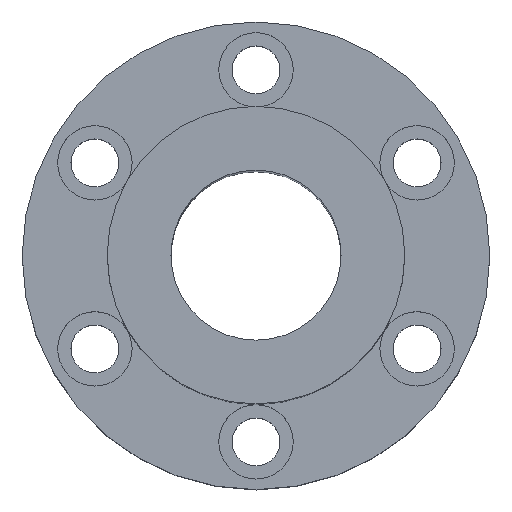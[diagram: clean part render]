
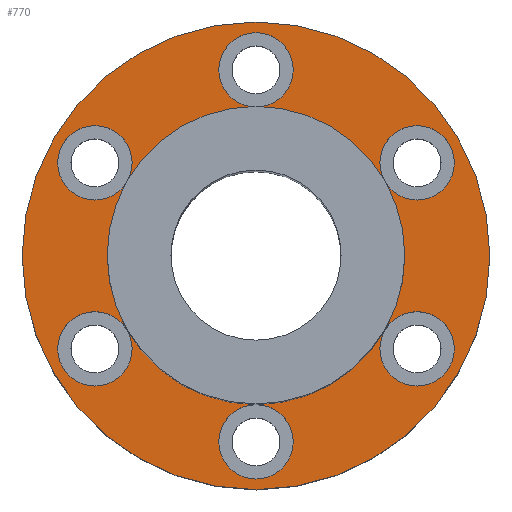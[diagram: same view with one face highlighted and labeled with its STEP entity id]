
A CAD part, top view. The second image highlights one B-rep face of the part: STEP entity #770.
In plain terms, the highlighted planar face has unit normal (0, 0, 1).
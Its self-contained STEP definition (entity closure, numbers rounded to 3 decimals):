
#1=CARTESIAN_POINT('',(0.,0.,17.5));
#2=DIRECTION('',(0.,0.,-1.));
#3=DIRECTION('',(0.866,0.5,0.));
#4=AXIS2_PLACEMENT_3D('',#1,#2,#3);
#6=CARTESIAN_POINT('',(30.311,17.5,17.5));
#7=DIRECTION('',(0.,0.,-1.));
#8=DIRECTION('',(0.5,-0.866,0.));
#9=AXIS2_PLACEMENT_3D('',#6,#7,#8);
#11=CARTESIAN_POINT('',(30.311,17.5,17.5));
#12=DIRECTION('',(0.,0.,-1.));
#13=DIRECTION('',(-0.5,0.866,0.));
#14=AXIS2_PLACEMENT_3D('',#11,#12,#13);
#16=CARTESIAN_POINT('',(30.311,17.5,17.5));
#17=DIRECTION('',(0.,0.,-1.));
#18=DIRECTION('',(-0.866,-0.5,0.));
#19=AXIS2_PLACEMENT_3D('',#16,#17,#18);
#21=CARTESIAN_POINT('',(0.,0.,17.5));
#22=DIRECTION('',(0.,0.,-1.));
#23=DIRECTION('',(0.,1.,0.));
#24=AXIS2_PLACEMENT_3D('',#21,#22,#23);
#26=CARTESIAN_POINT('',(0.,35.,17.5));
#27=DIRECTION('',(0.,0.,-1.));
#28=DIRECTION('',(1.,0.,0.));
#29=AXIS2_PLACEMENT_3D('',#26,#27,#28);
#31=CARTESIAN_POINT('',(0.,35.,17.5));
#32=DIRECTION('',(0.,0.,-1.));
#33=DIRECTION('',(-1.,0.,0.));
#34=AXIS2_PLACEMENT_3D('',#31,#32,#33);
#36=CARTESIAN_POINT('',(0.,35.,17.5));
#37=DIRECTION('',(0.,0.,-1.));
#38=DIRECTION('',(0.,-1.,0.));
#39=AXIS2_PLACEMENT_3D('',#36,#37,#38);
#41=CARTESIAN_POINT('',(0.,0.,17.5));
#42=DIRECTION('',(0.,0.,-1.));
#43=DIRECTION('',(-0.866,0.5,0.));
#44=AXIS2_PLACEMENT_3D('',#41,#42,#43);
#46=CARTESIAN_POINT('',(-30.311,17.5,17.5));
#47=DIRECTION('',(0.,0.,-1.));
#48=DIRECTION('',(0.5,0.866,0.));
#49=AXIS2_PLACEMENT_3D('',#46,#47,#48);
#51=CARTESIAN_POINT('',(-30.311,17.5,17.5));
#52=DIRECTION('',(0.,0.,-1.));
#53=DIRECTION('',(-0.5,-0.866,0.));
#54=AXIS2_PLACEMENT_3D('',#51,#52,#53);
#56=CARTESIAN_POINT('',(-30.311,17.5,17.5));
#57=DIRECTION('',(0.,0.,-1.));
#58=DIRECTION('',(0.866,-0.5,0.));
#59=AXIS2_PLACEMENT_3D('',#56,#57,#58);
#61=CARTESIAN_POINT('',(0.,0.,17.5));
#62=DIRECTION('',(0.,0.,-1.));
#63=DIRECTION('',(-1.,0.,0.));
#64=AXIS2_PLACEMENT_3D('',#61,#62,#63);
#66=CARTESIAN_POINT('',(0.,0.,17.5));
#67=DIRECTION('',(0.,0.,-1.));
#68=DIRECTION('',(-0.866,-0.5,0.));
#69=AXIS2_PLACEMENT_3D('',#66,#67,#68);
#71=CARTESIAN_POINT('',(-30.311,-17.5,17.5));
#72=DIRECTION('',(0.,0.,-1.));
#73=DIRECTION('',(-0.5,0.866,0.));
#74=AXIS2_PLACEMENT_3D('',#71,#72,#73);
#76=CARTESIAN_POINT('',(-30.311,-17.5,17.5));
#77=DIRECTION('',(0.,0.,-1.));
#78=DIRECTION('',(0.5,-0.866,0.));
#79=AXIS2_PLACEMENT_3D('',#76,#77,#78);
#81=CARTESIAN_POINT('',(-30.311,-17.5,17.5));
#82=DIRECTION('',(0.,0.,-1.));
#83=DIRECTION('',(0.866,0.5,0.));
#84=AXIS2_PLACEMENT_3D('',#81,#82,#83);
#86=CARTESIAN_POINT('',(0.,0.,17.5));
#87=DIRECTION('',(0.,0.,-1.));
#88=DIRECTION('',(0.,-1.,0.));
#89=AXIS2_PLACEMENT_3D('',#86,#87,#88);
#91=CARTESIAN_POINT('',(0.,-35.,17.5));
#92=DIRECTION('',(0.,0.,-1.));
#93=DIRECTION('',(-1.,0.,0.));
#94=AXIS2_PLACEMENT_3D('',#91,#92,#93);
#96=CARTESIAN_POINT('',(0.,-35.,17.5));
#97=DIRECTION('',(0.,0.,-1.));
#98=DIRECTION('',(1.,0.,0.));
#99=AXIS2_PLACEMENT_3D('',#96,#97,#98);
#101=CARTESIAN_POINT('',(0.,-35.,17.5));
#102=DIRECTION('',(0.,0.,-1.));
#103=DIRECTION('',(0.,1.,0.));
#104=AXIS2_PLACEMENT_3D('',#101,#102,#103);
#106=CARTESIAN_POINT('',(0.,0.,17.5));
#107=DIRECTION('',(0.,0.,-1.));
#108=DIRECTION('',(0.866,-0.5,0.));
#109=AXIS2_PLACEMENT_3D('',#106,#107,#108);
#111=CARTESIAN_POINT('',(30.311,-17.5,17.5));
#112=DIRECTION('',(0.,0.,-1.));
#113=DIRECTION('',(-0.5,-0.866,0.));
#114=AXIS2_PLACEMENT_3D('',#111,#112,#113);
#116=CARTESIAN_POINT('',(30.311,-17.5,17.5));
#117=DIRECTION('',(0.,0.,-1.));
#118=DIRECTION('',(0.5,0.866,0.));
#119=AXIS2_PLACEMENT_3D('',#116,#117,#118);
#121=CARTESIAN_POINT('',(30.311,-17.5,17.5));
#122=DIRECTION('',(0.,0.,-1.));
#123=DIRECTION('',(-0.866,0.5,0.));
#124=AXIS2_PLACEMENT_3D('',#121,#122,#123);
#126=CARTESIAN_POINT('',(0.,0.,17.5));
#127=DIRECTION('',(0.,0.,-1.));
#128=DIRECTION('',(1.,0.,0.));
#129=AXIS2_PLACEMENT_3D('',#126,#127,#128);
#131=CARTESIAN_POINT('',(0.,0.,17.5));
#132=DIRECTION('',(0.,0.,1.));
#133=DIRECTION('',(1.,0.,0.));
#134=AXIS2_PLACEMENT_3D('',#131,#132,#133);
#136=CARTESIAN_POINT('',(0.,0.,17.5));
#137=DIRECTION('',(0.,0.,1.));
#138=DIRECTION('',(-1.,0.,0.));
#139=AXIS2_PLACEMENT_3D('',#136,#137,#138);
#621=CARTESIAN_POINT('',(-44.,0.,17.5));
#623=VERTEX_POINT('',#621);
#625=CARTESIAN_POINT('',(44.,0.,17.5));
#627=VERTEX_POINT('',#625);
#629=CARTESIAN_POINT('',(7.,35.,17.5));
#631=VERTEX_POINT('',#629);
#633=CARTESIAN_POINT('',(-7.,35.,17.5));
#635=VERTEX_POINT('',#633);
#637=CARTESIAN_POINT('',(-26.811,23.562,17.5));
#639=VERTEX_POINT('',#637);
#641=CARTESIAN_POINT('',(-33.811,11.438,17.5));
#643=VERTEX_POINT('',#641);
#645=CARTESIAN_POINT('',(-33.811,-11.438,17.5));
#647=VERTEX_POINT('',#645);
#649=CARTESIAN_POINT('',(-26.811,-23.562,17.5));
#651=VERTEX_POINT('',#649);
#653=CARTESIAN_POINT('',(-7.,-35.,17.5));
#655=VERTEX_POINT('',#653);
#657=CARTESIAN_POINT('',(7.,-35.,17.5));
#659=VERTEX_POINT('',#657);
#661=CARTESIAN_POINT('',(26.811,-23.562,17.5));
#663=VERTEX_POINT('',#661);
#665=CARTESIAN_POINT('',(33.811,-11.438,17.5));
#667=VERTEX_POINT('',#665);
#669=CARTESIAN_POINT('',(33.811,11.438,17.5));
#671=VERTEX_POINT('',#669);
#673=CARTESIAN_POINT('',(26.811,23.562,17.5));
#675=VERTEX_POINT('',#673);
#686=CARTESIAN_POINT('',(28.,0.,17.5));
#688=VERTEX_POINT('',#686);
#690=CARTESIAN_POINT('',(-28.,0.,17.5));
#692=VERTEX_POINT('',#690);
#693=CARTESIAN_POINT('',(24.249,-14.,17.5));
#694=VERTEX_POINT('',#693);
#695=CARTESIAN_POINT('',(0.,-28.,17.5));
#696=VERTEX_POINT('',#695);
#697=CARTESIAN_POINT('',(-24.249,-14.,17.5));
#698=VERTEX_POINT('',#697);
#699=CARTESIAN_POINT('',(-24.249,14.,17.5));
#700=VERTEX_POINT('',#699);
#701=CARTESIAN_POINT('',(0.,28.,17.5));
#702=VERTEX_POINT('',#701);
#703=CARTESIAN_POINT('',(24.249,14.,17.5));
#704=VERTEX_POINT('',#703);
#705=CARTESIAN_POINT('',(0.,0.,17.5));
#706=DIRECTION('',(0.,0.,1.));
#707=DIRECTION('',(1.,0.,0.));
#708=AXIS2_PLACEMENT_3D('',#705,#706,#707);
#709=PLANE('',#708);
#711=ORIENTED_EDGE('',*,*,#710,.F.);
#713=ORIENTED_EDGE('',*,*,#712,.F.);
#714=EDGE_LOOP('',(#711,#713));
#715=FACE_OUTER_BOUND('',#714,.F.);
#717=ORIENTED_EDGE('',*,*,#716,.F.);
#719=ORIENTED_EDGE('',*,*,#718,.F.);
#721=ORIENTED_EDGE('',*,*,#720,.F.);
#723=ORIENTED_EDGE('',*,*,#722,.F.);
#725=ORIENTED_EDGE('',*,*,#724,.F.);
#727=ORIENTED_EDGE('',*,*,#726,.F.);
#729=ORIENTED_EDGE('',*,*,#728,.F.);
#731=ORIENTED_EDGE('',*,*,#730,.F.);
#733=ORIENTED_EDGE('',*,*,#732,.F.);
#735=ORIENTED_EDGE('',*,*,#734,.F.);
#737=ORIENTED_EDGE('',*,*,#736,.F.);
#739=ORIENTED_EDGE('',*,*,#738,.F.);
#741=ORIENTED_EDGE('',*,*,#740,.F.);
#743=ORIENTED_EDGE('',*,*,#742,.F.);
#745=ORIENTED_EDGE('',*,*,#744,.F.);
#747=ORIENTED_EDGE('',*,*,#746,.F.);
#749=ORIENTED_EDGE('',*,*,#748,.F.);
#751=ORIENTED_EDGE('',*,*,#750,.F.);
#753=ORIENTED_EDGE('',*,*,#752,.F.);
#755=ORIENTED_EDGE('',*,*,#754,.F.);
#757=ORIENTED_EDGE('',*,*,#756,.F.);
#759=ORIENTED_EDGE('',*,*,#758,.F.);
#761=ORIENTED_EDGE('',*,*,#760,.F.);
#763=ORIENTED_EDGE('',*,*,#762,.F.);
#765=ORIENTED_EDGE('',*,*,#764,.F.);
#767=ORIENTED_EDGE('',*,*,#766,.F.);
#768=EDGE_LOOP('',(#717,#719,#721,#723,#725,#727,#729,#731,#733,#735,#737,#739,
#741,#743,#745,#747,#749,#751,#753,#755,#757,#759,#761,#763,#765,#767));
#769=FACE_BOUND('',#768,.F.);
#770=ADVANCED_FACE('',(#715,#769),#709,.T.);
#5=CIRCLE('',#4,28.);
#10=CIRCLE('',#9,7.);
#15=CIRCLE('',#14,7.);
#20=CIRCLE('',#19,7.);
#25=CIRCLE('',#24,28.);
#30=CIRCLE('',#29,7.);
#35=CIRCLE('',#34,7.);
#40=CIRCLE('',#39,7.);
#45=CIRCLE('',#44,28.);
#50=CIRCLE('',#49,7.);
#55=CIRCLE('',#54,7.);
#60=CIRCLE('',#59,7.);
#65=CIRCLE('',#64,28.);
#70=CIRCLE('',#69,28.);
#75=CIRCLE('',#74,7.);
#80=CIRCLE('',#79,7.);
#85=CIRCLE('',#84,7.);
#90=CIRCLE('',#89,28.);
#95=CIRCLE('',#94,7.);
#100=CIRCLE('',#99,7.);
#105=CIRCLE('',#104,7.);
#110=CIRCLE('',#109,28.);
#115=CIRCLE('',#114,7.);
#120=CIRCLE('',#119,7.);
#125=CIRCLE('',#124,7.);
#130=CIRCLE('',#129,28.);
#135=CIRCLE('',#134,44.);
#140=CIRCLE('',#139,44.);
#710=EDGE_CURVE('',#627,#623,#135,.T.);
#712=EDGE_CURVE('',#623,#627,#140,.T.);
#716=EDGE_CURVE('',#704,#688,#5,.T.);
#718=EDGE_CURVE('',#671,#704,#10,.T.);
#720=EDGE_CURVE('',#675,#671,#15,.T.);
#722=EDGE_CURVE('',#704,#675,#20,.T.);
#724=EDGE_CURVE('',#702,#704,#25,.T.);
#726=EDGE_CURVE('',#631,#702,#30,.T.);
#728=EDGE_CURVE('',#635,#631,#35,.T.);
#730=EDGE_CURVE('',#702,#635,#40,.T.);
#732=EDGE_CURVE('',#700,#702,#45,.T.);
#734=EDGE_CURVE('',#639,#700,#50,.T.);
#736=EDGE_CURVE('',#643,#639,#55,.T.);
#738=EDGE_CURVE('',#700,#643,#60,.T.);
#740=EDGE_CURVE('',#692,#700,#65,.T.);
#742=EDGE_CURVE('',#698,#692,#70,.T.);
#744=EDGE_CURVE('',#647,#698,#75,.T.);
#746=EDGE_CURVE('',#651,#647,#80,.T.);
#748=EDGE_CURVE('',#698,#651,#85,.T.);
#750=EDGE_CURVE('',#696,#698,#90,.T.);
#752=EDGE_CURVE('',#655,#696,#95,.T.);
#754=EDGE_CURVE('',#659,#655,#100,.T.);
#756=EDGE_CURVE('',#696,#659,#105,.T.);
#758=EDGE_CURVE('',#694,#696,#110,.T.);
#760=EDGE_CURVE('',#663,#694,#115,.T.);
#762=EDGE_CURVE('',#667,#663,#120,.T.);
#764=EDGE_CURVE('',#694,#667,#125,.T.);
#766=EDGE_CURVE('',#688,#694,#130,.T.);
